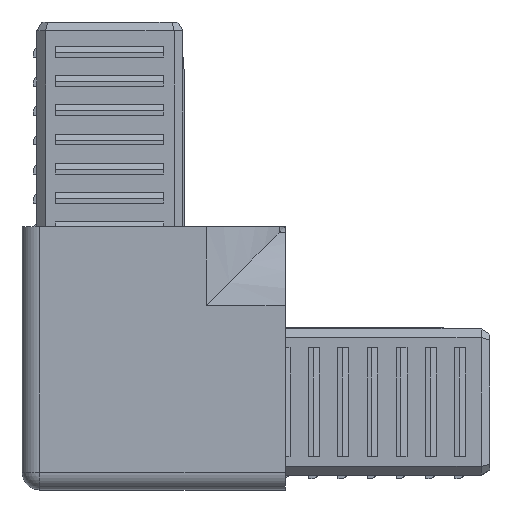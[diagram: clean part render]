
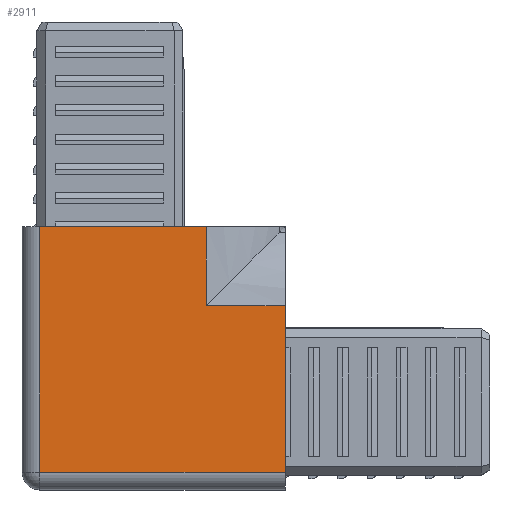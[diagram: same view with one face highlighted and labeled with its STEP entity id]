
A CAD part, top view. The second image highlights one B-rep face of the part: STEP entity #2911.
In plain terms, the highlighted planar face has unit normal (0, 0, 1).
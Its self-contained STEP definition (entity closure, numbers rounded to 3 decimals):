
#339 = LINE ( 'NONE', #6819, #459 ) ;
#380 = DIRECTION ( 'NONE',  ( 0., 0., -1. ) ) ;
#390 = EDGE_CURVE ( 'NONE', #6523, #8595, #7605, .T. ) ;
#440 = CARTESIAN_POINT ( 'NONE',  ( 9., 9., 15. ) ) ;
#459 = VECTOR ( 'NONE', #10446, 1000. ) ;
#485 = ORIENTED_EDGE ( 'NONE', *, *, #10627, .T. ) ;
#1012 = CARTESIAN_POINT ( 'NONE',  ( -19.5, 0., 15. ) ) ;
#1127 = VECTOR ( 'NONE', #2632, 1000. ) ;
#1133 = CARTESIAN_POINT ( 'NONE',  ( 0., 9., 15. ) ) ;
#1351 = VERTEX_POINT ( 'NONE', #8190 ) ;
#1574 = ORIENTED_EDGE ( 'NONE', *, *, #10127, .T. ) ;
#2109 = CARTESIAN_POINT ( 'NONE',  ( 0., 0., 15. ) ) ;
#2459 = EDGE_CURVE ( 'NONE', #10436, #4940, #10198, .T. ) ;
#2632 = DIRECTION ( 'NONE',  ( -1., 0., 0. ) ) ;
#2911 = ADVANCED_FACE ( 'NONE', ( #9074 ), #3707, .F. ) ;
#3707 = PLANE ( 'NONE',  #8335 ) ;
#4175 = CARTESIAN_POINT ( 'NONE',  ( 22.5, -22.5, 15. ) ) ;
#4355 = ORIENTED_EDGE ( 'NONE', *, *, #390, .T. ) ;
#4446 = CARTESIAN_POINT ( 'NONE',  ( -22.5, 22.5, 15. ) ) ;
#4682 = DIRECTION ( 'NONE',  ( -1., 0., 0. ) ) ;
#4754 = DIRECTION ( 'NONE',  ( -1., 0., 0. ) ) ;
#4940 = VERTEX_POINT ( 'NONE', #6192 ) ;
#5095 = VERTEX_POINT ( 'NONE', #440 ) ;
#5188 = LINE ( 'NONE', #4175, #7205 ) ;
#5196 = CARTESIAN_POINT ( 'NONE',  ( 22.5, -19.5, 15. ) ) ;
#5998 = EDGE_CURVE ( 'NONE', #1351, #10436, #5188, .T. ) ;
#6192 = CARTESIAN_POINT ( 'NONE',  ( -19.5, -19.5, 15. ) ) ;
#6320 = CARTESIAN_POINT ( 'NONE',  ( -19.5, 22.5, 15. ) ) ;
#6523 = VERTEX_POINT ( 'NONE', #7537 ) ;
#6576 = VECTOR ( 'NONE', #7040, 1000. ) ;
#6725 = EDGE_CURVE ( 'NONE', #6523, #5095, #339, .T. ) ;
#6819 = CARTESIAN_POINT ( 'NONE',  ( 9., 0., 15. ) ) ;
#6951 = EDGE_LOOP ( 'NONE', ( #485, #8043, #8751, #1574, #8003, #4355 ) ) ;
#7040 = DIRECTION ( 'NONE',  ( 0., -1., 0. ) ) ;
#7074 = VECTOR ( 'NONE', #4754, 1000. ) ;
#7113 = LINE ( 'NONE', #1133, #9961 ) ;
#7205 = VECTOR ( 'NONE', #7640, 1000. ) ;
#7537 = CARTESIAN_POINT ( 'NONE',  ( 9., 22.5, 15. ) ) ;
#7605 = LINE ( 'NONE', #4446, #1127 ) ;
#7640 = DIRECTION ( 'NONE',  ( 0., -1., 0. ) ) ;
#8003 = ORIENTED_EDGE ( 'NONE', *, *, #6725, .F. ) ;
#8043 = ORIENTED_EDGE ( 'NONE', *, *, #2459, .F. ) ;
#8190 = CARTESIAN_POINT ( 'NONE',  ( 22.5, 9., 15. ) ) ;
#8319 = LINE ( 'NONE', #1012, #6576 ) ;
#8335 = AXIS2_PLACEMENT_3D ( 'NONE', #2109, #380, #9753 ) ;
#8595 = VERTEX_POINT ( 'NONE', #6320 ) ;
#8751 = ORIENTED_EDGE ( 'NONE', *, *, #5998, .F. ) ;
#9074 = FACE_OUTER_BOUND ( 'NONE', #6951, .T. ) ;
#9753 = DIRECTION ( 'NONE',  ( -1., 0., 0. ) ) ;
#9961 = VECTOR ( 'NONE', #4682, 1000. ) ;
#10127 = EDGE_CURVE ( 'NONE', #1351, #5095, #7113, .T. ) ;
#10198 = LINE ( 'NONE', #10844, #7074 ) ;
#10436 = VERTEX_POINT ( 'NONE', #5196 ) ;
#10446 = DIRECTION ( 'NONE',  ( 0., -1., 0. ) ) ;
#10627 = EDGE_CURVE ( 'NONE', #8595, #4940, #8319, .T. ) ;
#10844 = CARTESIAN_POINT ( 'NONE',  ( 0., -19.5, 15. ) ) ;
